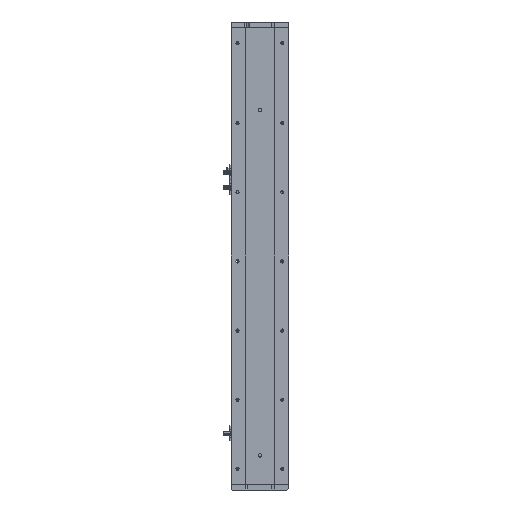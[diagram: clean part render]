
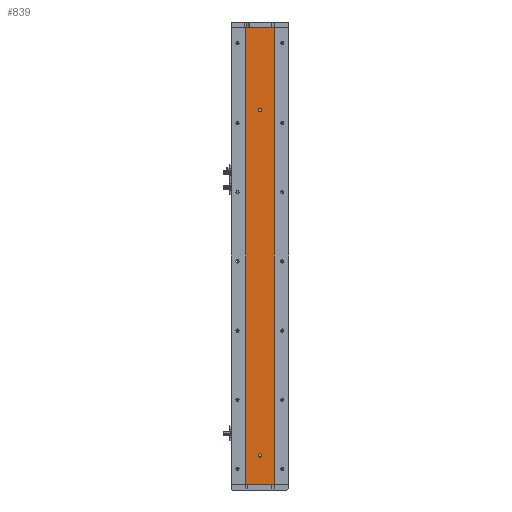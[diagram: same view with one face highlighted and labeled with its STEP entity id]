
A CAD part, left-side view. The second image highlights one B-rep face of the part: STEP entity #839.
In plain terms, the highlighted planar face has unit normal (-1, 0, 0).
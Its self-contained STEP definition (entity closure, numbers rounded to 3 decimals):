
#772 = LINE ( 'NONE', #25598, #9346 ) ;
#839 = ADVANCED_FACE ( 'NONE', ( #881, #7646, #6758 ), #28941, .F. ) ;
#881 = FACE_BOUND ( 'NONE', #34527, .T. ) ;
#1017 = VERTEX_POINT ( 'NONE', #24234 ) ;
#1035 = DIRECTION ( 'NONE',  ( -1., 0., 0. ) ) ;
#1393 = EDGE_CURVE ( 'NONE', #25921, #28867, #34674, .T. ) ;
#1514 = AXIS2_PLACEMENT_3D ( 'NONE', #24961, #7821, #27860 ) ;
#2099 = EDGE_CURVE ( 'NONE', #28277, #33250, #12977, .T. ) ;
#2158 = DIRECTION ( 'NONE',  ( -1., 0., 0. ) ) ;
#2187 = EDGE_LOOP ( 'NONE', ( #4099, #11575 ) ) ;
#3033 = CARTESIAN_POINT ( 'NONE',  ( -18.926, 24.785, 793. ) ) ;
#3752 = DIRECTION ( 'NONE',  ( 0., 0., -1. ) ) ;
#3830 = EDGE_CURVE ( 'NONE', #8802, #28277, #17564, .T. ) ;
#4099 = ORIENTED_EDGE ( 'NONE', *, *, #6784, .F. ) ;
#4759 = ORIENTED_EDGE ( 'NONE', *, *, #32591, .F. ) ;
#6061 = ORIENTED_EDGE ( 'NONE', *, *, #3830, .T. ) ;
#6650 = AXIS2_PLACEMENT_3D ( 'NONE', #7108, #6970, #6709 ) ;
#6700 = CARTESIAN_POINT ( 'NONE',  ( -18.926, 24.785, 793. ) ) ;
#6709 = DIRECTION ( 'NONE',  ( 0., 0., 1. ) ) ;
#6758 = FACE_OUTER_BOUND ( 'NONE', #32838, .T. ) ;
#6784 = EDGE_CURVE ( 'NONE', #31428, #1017, #22269, .T. ) ;
#6970 = DIRECTION ( 'NONE',  ( -1., 0., 0. ) ) ;
#7108 = CARTESIAN_POINT ( 'NONE',  ( -18.926, 0., 650. ) ) ;
#7176 = DIRECTION ( 'NONE',  ( 0., 0., -1. ) ) ;
#7646 = FACE_BOUND ( 'NONE', #2187, .T. ) ;
#7821 = DIRECTION ( 'NONE',  ( -1., 0., 0. ) ) ;
#8466 = DIRECTION ( 'NONE',  ( 0., -1., 0. ) ) ;
#8544 = CARTESIAN_POINT ( 'NONE',  ( -18.926, -24.785, 0. ) ) ;
#8802 = VERTEX_POINT ( 'NONE', #3033 ) ;
#9346 = VECTOR ( 'NONE', #8466, 1000. ) ;
#10046 = ORIENTED_EDGE ( 'NONE', *, *, #1393, .F. ) ;
#10101 = CARTESIAN_POINT ( 'NONE',  ( -18.926, -24.785, 793. ) ) ;
#11575 = ORIENTED_EDGE ( 'NONE', *, *, #20047, .F. ) ;
#11693 = EDGE_CURVE ( 'NONE', #28867, #25921, #27020, .T. ) ;
#12948 = CIRCLE ( 'NONE', #30489, 3. ) ;
#12977 = LINE ( 'NONE', #22517, #19746 ) ;
#14228 = VECTOR ( 'NONE', #3752, 1000. ) ;
#15102 = VERTEX_POINT ( 'NONE', #10101 ) ;
#15118 = LINE ( 'NONE', #35268, #14228 ) ;
#17564 = LINE ( 'NONE', #6700, #24282 ) ;
#18207 = CARTESIAN_POINT ( 'NONE',  ( -18.926, 0., 50. ) ) ;
#18631 = ORIENTED_EDGE ( 'NONE', *, *, #26091, .F. ) ;
#19361 = CARTESIAN_POINT ( 'NONE',  ( -18.926, 0., 50. ) ) ;
#19746 = VECTOR ( 'NONE', #28541, 1000. ) ;
#20047 = EDGE_CURVE ( 'NONE', #1017, #31428, #12948, .T. ) ;
#21115 = DIRECTION ( 'NONE',  ( 0., 0., 1. ) ) ;
#22254 = DIRECTION ( 'NONE',  ( 0., 0., 1. ) ) ;
#22269 = CIRCLE ( 'NONE', #26293, 3. ) ;
#22517 = CARTESIAN_POINT ( 'NONE',  ( -18.926, 24.785, 0. ) ) ;
#22562 = CARTESIAN_POINT ( 'NONE',  ( -18.926, 0., 53. ) ) ;
#23042 = AXIS2_PLACEMENT_3D ( 'NONE', #28063, #28000, #27862 ) ;
#24234 = CARTESIAN_POINT ( 'NONE',  ( -18.926, 0., 47. ) ) ;
#24282 = VECTOR ( 'NONE', #7176, 1000. ) ;
#24961 = CARTESIAN_POINT ( 'NONE',  ( -18.926, 0., 650. ) ) ;
#25598 = CARTESIAN_POINT ( 'NONE',  ( -18.926, 24.785, 793. ) ) ;
#25723 = CARTESIAN_POINT ( 'NONE',  ( -18.926, 0., 647. ) ) ;
#25921 = VERTEX_POINT ( 'NONE', #28551 ) ;
#26091 = EDGE_CURVE ( 'NONE', #15102, #33250, #15118, .T. ) ;
#26293 = AXIS2_PLACEMENT_3D ( 'NONE', #18207, #1035, #21115 ) ;
#27020 = CIRCLE ( 'NONE', #1514, 3. ) ;
#27860 = DIRECTION ( 'NONE',  ( 0., 0., 1. ) ) ;
#27862 = DIRECTION ( 'NONE',  ( 0., 0., -1. ) ) ;
#28000 = DIRECTION ( 'NONE',  ( 1., 0., 0. ) ) ;
#28063 = CARTESIAN_POINT ( 'NONE',  ( -18.926, 24.785, 793. ) ) ;
#28277 = VERTEX_POINT ( 'NONE', #36990 ) ;
#28541 = DIRECTION ( 'NONE',  ( 0., -1., 0. ) ) ;
#28551 = CARTESIAN_POINT ( 'NONE',  ( -18.926, 0., 653. ) ) ;
#28867 = VERTEX_POINT ( 'NONE', #25723 ) ;
#28941 = PLANE ( 'NONE',  #23042 ) ;
#29230 = ORIENTED_EDGE ( 'NONE', *, *, #11693, .F. ) ;
#30489 = AXIS2_PLACEMENT_3D ( 'NONE', #19361, #2158, #22254 ) ;
#30989 = ORIENTED_EDGE ( 'NONE', *, *, #2099, .T. ) ;
#31428 = VERTEX_POINT ( 'NONE', #22562 ) ;
#32591 = EDGE_CURVE ( 'NONE', #8802, #15102, #772, .T. ) ;
#32838 = EDGE_LOOP ( 'NONE', ( #30989, #18631, #4759, #6061 ) ) ;
#33250 = VERTEX_POINT ( 'NONE', #8544 ) ;
#34527 = EDGE_LOOP ( 'NONE', ( #10046, #29230 ) ) ;
#34674 = CIRCLE ( 'NONE', #6650, 3. ) ;
#35268 = CARTESIAN_POINT ( 'NONE',  ( -18.926, -24.785, 793. ) ) ;
#36990 = CARTESIAN_POINT ( 'NONE',  ( -18.926, 24.785, 0. ) ) ;
